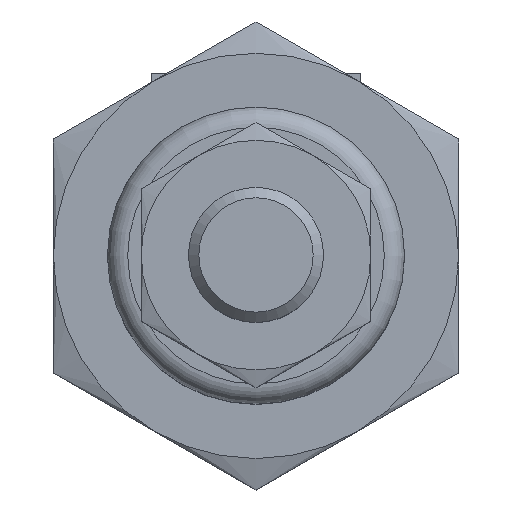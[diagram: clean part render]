
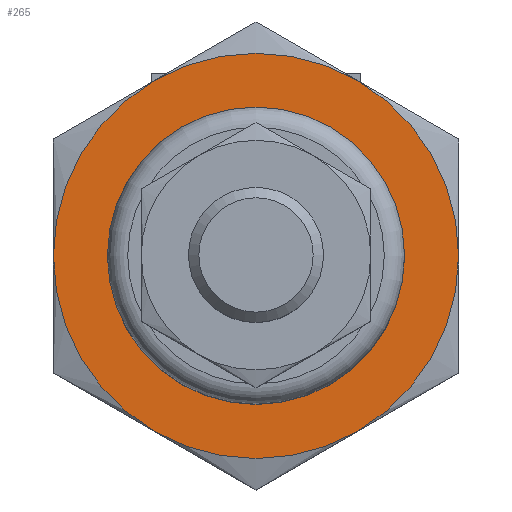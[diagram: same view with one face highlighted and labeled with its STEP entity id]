
A CAD part, top view. The second image highlights one B-rep face of the part: STEP entity #265.
In plain terms, the highlighted planar face has unit normal (0, 0, 1) as drawn and (-1, 0, 0) by its records, which use the part's own axes.
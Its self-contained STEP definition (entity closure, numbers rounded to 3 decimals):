
#265 = ADVANCED_FACE( '', ( #558, #559 ), #560, .F. );
#558 = FACE_OUTER_BOUND( '', #939, .T. );
#559 = FACE_BOUND( '', #940, .T. );
#560 = PLANE( '', #941 );
#939 = EDGE_LOOP( '', ( #1396, #1397, #1398, #1399, #1400, #1401 ) );
#940 = EDGE_LOOP( '', ( #1402 ) );
#941 = AXIS2_PLACEMENT_3D( '', #1403, #1404, #1405 );
#1396 = ORIENTED_EDGE( '', *, *, #2175, .F. );
#1397 = ORIENTED_EDGE( '', *, *, #2176, .F. );
#1398 = ORIENTED_EDGE( '', *, *, #2177, .F. );
#1399 = ORIENTED_EDGE( '', *, *, #2162, .F. );
#1400 = ORIENTED_EDGE( '', *, *, #2178, .F. );
#1401 = ORIENTED_EDGE( '', *, *, #2104, .F. );
#1402 = ORIENTED_EDGE( '', *, *, #2165, .T. );
#1403 = CARTESIAN_POINT( '', ( -3., 0., 0. ) );
#1404 = DIRECTION( '', ( 1., 0., 0. ) );
#1405 = DIRECTION( '', ( 0., 0., -1. ) );
#2104 = EDGE_CURVE( '', #2434, #2435, #2436, .T. );
#2162 = EDGE_CURVE( '', #2530, #2527, #2532, .T. );
#2165 = EDGE_CURVE( '', #2536, #2536, #2537, .T. );
#2175 = EDGE_CURVE( '', #2552, #2434, #2553, .T. );
#2176 = EDGE_CURVE( '', #2554, #2552, #2555, .T. );
#2177 = EDGE_CURVE( '', #2527, #2554, #2556, .T. );
#2178 = EDGE_CURVE( '', #2435, #2530, #2557, .T. );
#2434 = VERTEX_POINT( '', #2919 );
#2435 = VERTEX_POINT( '', #2920 );
#2436 = CIRCLE( '', #2921, 15. );
#2527 = VERTEX_POINT( '', #3059 );
#2530 = VERTEX_POINT( '', #3067 );
#2532 = CIRCLE( '', #3074, 15. );
#2536 = VERTEX_POINT( '', #3078 );
#2537 = CIRCLE( '', #3079, 11. );
#2552 = VERTEX_POINT( '', #3102 );
#2553 = CIRCLE( '', #3103, 15. );
#2554 = VERTEX_POINT( '', #3104 );
#2555 = CIRCLE( '', #3105, 15. );
#2556 = CIRCLE( '', #3106, 15. );
#2557 = CIRCLE( '', #3107, 15. );
#2919 = CARTESIAN_POINT( '', ( -3., 12.99, -7.5 ) );
#2920 = CARTESIAN_POINT( '', ( -3., 12.99, 7.5 ) );
#2921 = AXIS2_PLACEMENT_3D( '', #3703, #3704, #3705 );
#3059 = CARTESIAN_POINT( '', ( -3., -12.99, 7.5 ) );
#3067 = CARTESIAN_POINT( '', ( -3., 0., 15. ) );
#3074 = AXIS2_PLACEMENT_3D( '', #3775, #3776, #3777 );
#3078 = CARTESIAN_POINT( '', ( -3., 0., -11. ) );
#3079 = AXIS2_PLACEMENT_3D( '', #3781, #3782, #3783 );
#3102 = CARTESIAN_POINT( '', ( -3., 0., -15. ) );
#3103 = AXIS2_PLACEMENT_3D( '', #3792, #3793, #3794 );
#3104 = CARTESIAN_POINT( '', ( -3., -12.99, -7.5 ) );
#3105 = AXIS2_PLACEMENT_3D( '', #3795, #3796, #3797 );
#3106 = AXIS2_PLACEMENT_3D( '', #3798, #3799, #3800 );
#3107 = AXIS2_PLACEMENT_3D( '', #3801, #3802, #3803 );
#3703 = CARTESIAN_POINT( '', ( -3., 0., 0. ) );
#3704 = DIRECTION( '', ( 1., 0., 0. ) );
#3705 = DIRECTION( '', ( 0., 0., -1. ) );
#3775 = CARTESIAN_POINT( '', ( -3., 0., 0. ) );
#3776 = DIRECTION( '', ( 1., 0., 0. ) );
#3777 = DIRECTION( '', ( 0., 0., -1. ) );
#3781 = CARTESIAN_POINT( '', ( -3., 0., 0. ) );
#3782 = DIRECTION( '', ( 1., 0., 0. ) );
#3783 = DIRECTION( '', ( 0., 0., -1. ) );
#3792 = CARTESIAN_POINT( '', ( -3., 0., 0. ) );
#3793 = DIRECTION( '', ( 1., 0., 0. ) );
#3794 = DIRECTION( '', ( 0., 0., -1. ) );
#3795 = CARTESIAN_POINT( '', ( -3., 0., 0. ) );
#3796 = DIRECTION( '', ( 1., 0., 0. ) );
#3797 = DIRECTION( '', ( 0., 0., -1. ) );
#3798 = CARTESIAN_POINT( '', ( -3., 0., 0. ) );
#3799 = DIRECTION( '', ( 1., 0., 0. ) );
#3800 = DIRECTION( '', ( 0., 0., -1. ) );
#3801 = CARTESIAN_POINT( '', ( -3., 0., 0. ) );
#3802 = DIRECTION( '', ( 1., 0., 0. ) );
#3803 = DIRECTION( '', ( 0., 0., -1. ) );
